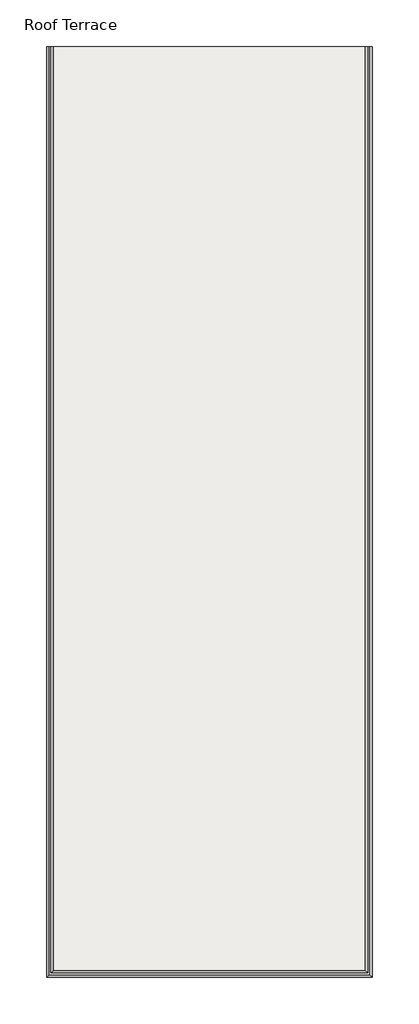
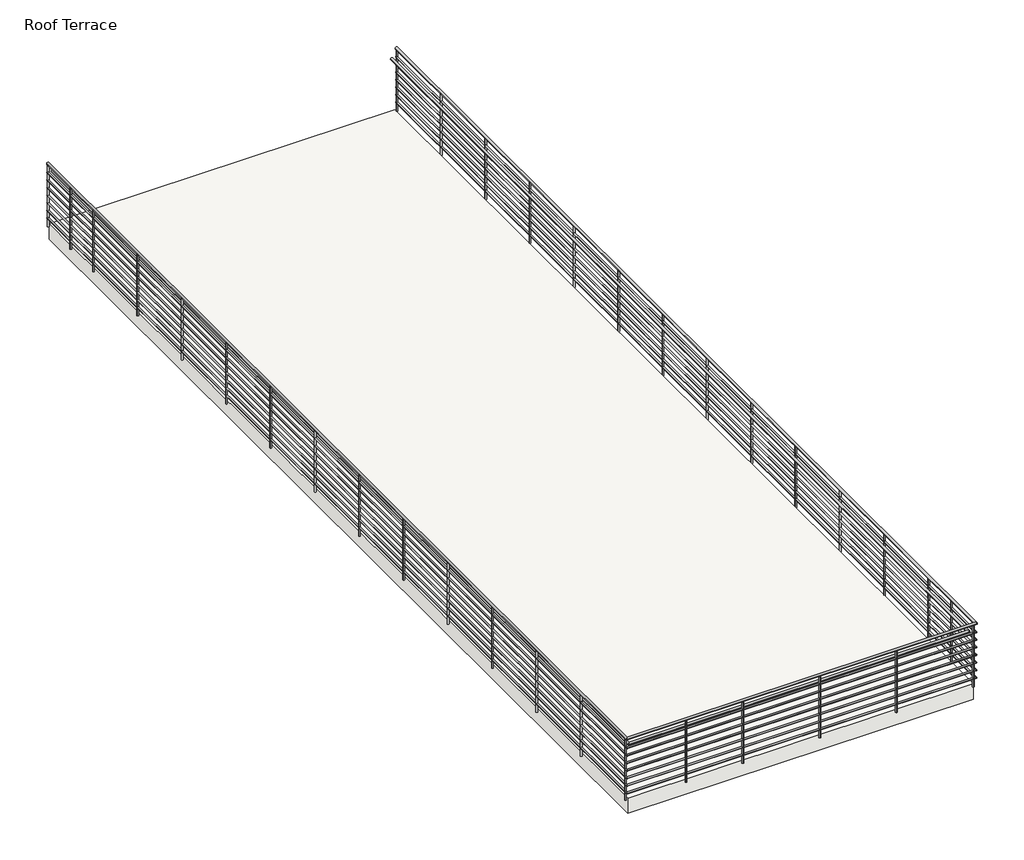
# One storey: 1 railing, 1 slab.
"""IFC4 building model written with IfcOpenShell, lengths in millimetres."""

from ifc_helpers import new_model, si_unit, frame, origin, place, context, project, spatial, polyline, outline, extrude, transform, mapped, element, save
from components import guardrail_pipe_0f17843e

model = new_model("IFC4")

# Units and contexts
model_context = context("Model", 3, world=origin())
ifc_project = project(units=[si_unit("LENGTHUNIT", "METRE", prefix="MILLI")], contexts=[model_context])

# Site, building, storey
site = spatial("IfcSite", under=ifc_project)
building = spatial("IfcBuilding", under=site)
storey = spatial("IfcBuildingStorey", under=building, Name="Roof Terrace", Elevation=12192.0)

# Railing
placement = place(None, origin())
guardrail_pipe_shape = guardrail_pipe_0f17843e(model_context)
element("IfcRailing", 1, ObjectType="Guardrail - Pipe", at=placement, inside=storey, context=model_context, shape_type="MappedRepresentation", body=[
    mapped(guardrail_pipe_shape, transform((0.0, 0.0, 0.0), x_axis=(1.0, 0.0, 0.0), y_axis=(0.0, 1.0, 0.0), z_axis=(0.0, 0.0, 1.0))),
])

# Slab
element("IfcSlab", 2, ObjectType="Wood Frame - 10\"", at=placement, inside=storey, context=model_context, shape_type="SweptSolid", body=[
    extrude(outline(polyline([(1006.6560388, 9152.359643), (1006.6560388, -6748.040357), (-4479.7439612, -6748.040357), (-4479.7439612, 9152.359643), (1006.6560388, 9152.359643)])), frame((0.0, 0.0, 11963.4), z_axis=(0.0, 0.0, 1.0), x_axis=(1.0, 0.0, 0.0)), (0.0, 0.0, 1.0), 254.0),
])

save(model, "model.ifc")
